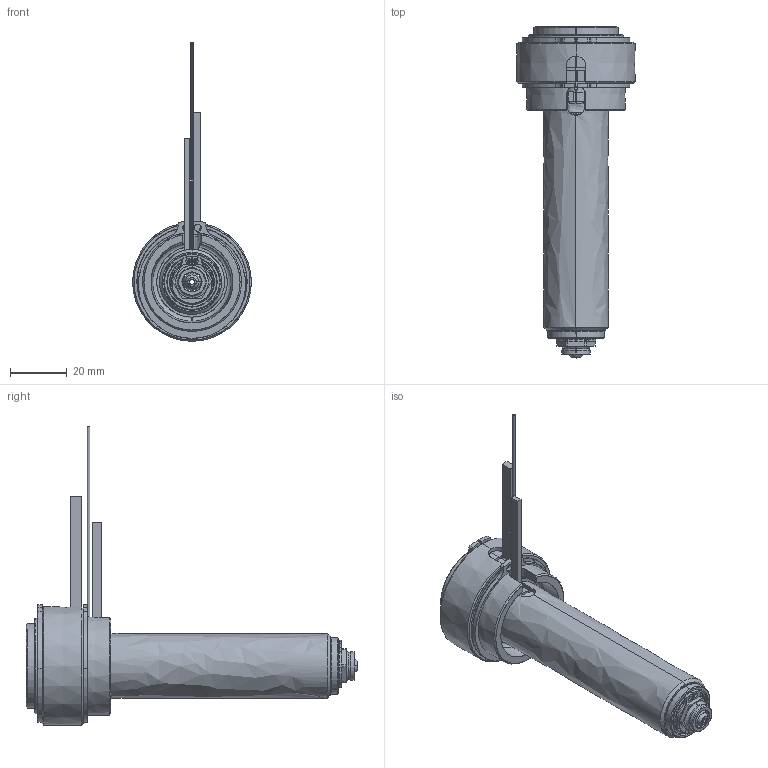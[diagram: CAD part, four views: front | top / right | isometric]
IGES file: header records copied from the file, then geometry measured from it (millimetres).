
Start section: SolidWorks IGES file using analytic representation for surfaces
Global section: file name: C:\Documents and Settings\ws-20\Desktop\TEM\UGER3552-M-A-0 [Øb-1.70  ØC-7.0].IGS; native system: SolidWorks 2012; preprocessor: SolidWorks 2012; author: ws-20; date: 120410.100521; units: millimetre
Bounding box: 42 x 117.4 x 105.6 mm (x, y, z)
Surface area: 37499.4 mm2 (no closed solid volume)
Topology: 0 solids, 0 shells, 202 faces, 3268 edges, 3268 vertices
Faces by surface type: revolution 130, bspline 72
